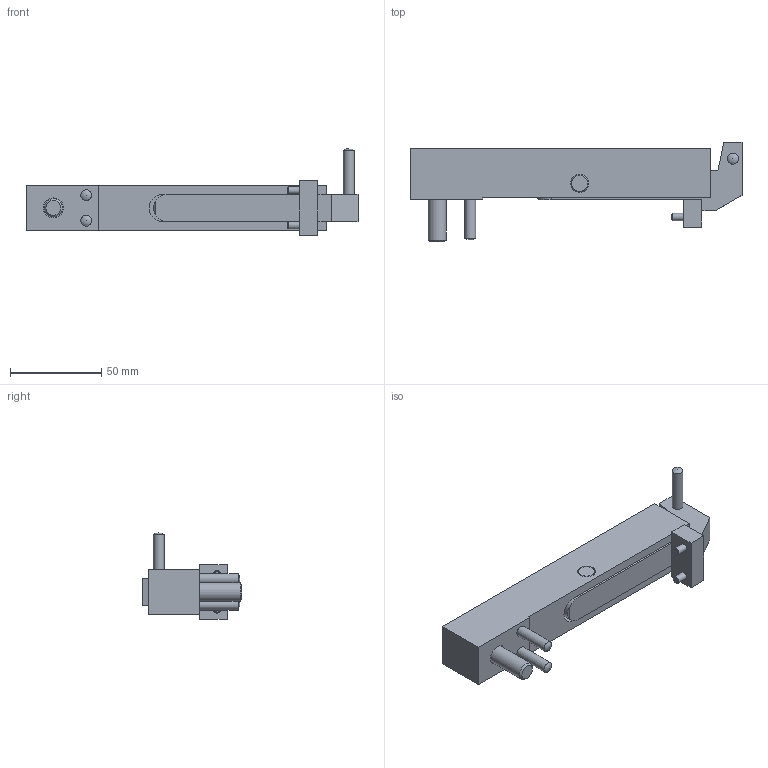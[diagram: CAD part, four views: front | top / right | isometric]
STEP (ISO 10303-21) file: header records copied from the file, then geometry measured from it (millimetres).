
FILE_DESCRIPTION(/* description */ ('STEP AP214'),/* implementation_level */ '2;1');
FILE_NAME(/* name */ 'KL13120',/* time_stamp */ '2024-12-19T07:59:46+01:00',/* author */ ('License CC BY-ND 4.0'),/* organization */ ('CADENAS'),/* preprocessor_version */ 'ST-DEVELOPER v19.3',/* originating_system */ 'PARTsolutions',/* authorisation */ ' ');
FILE_SCHEMA (('AUTOMOTIVE_DESIGN {1 0 10303 214 3 1 1}'));
Length unit declared in the file: millimetre
Products named in the file (10): KL13120; KL1312011; KL1312012; KL1312013; KL1312014; KL1312015; KL1312016; KL1312017; KL1312018; KL1312019
Assembly tree (11 placements, depth 2):
  KL13120
    KL1312011
    KL1312012
    KL1312013  x2
    KL1312014
    KL1312015
    KL1312016
    KL1312017
    KL1312018
    KL1312019  x2
Bounding box: 182 x 54.5 x 47.5 mm (x, y, z)
Volume: 122881.5 mm3; surface area: 43224 mm2
Topology: 11 solids, 11 shells, 118 faces, 270 edges, 178 vertices
Faces by surface type: plane 75, cylinder 26, cone 11, sphere 6
Full cylindrical faces by diameter (mm): 4 x2, 4.134 x1, 4.3 x2, 5 x1, 6 x6, 7 x2, 8 x2, 10 x5, 11 x1, 16 x1, 18 x1
Entity records: 2893 total; most frequent: DIRECTION 467, CARTESIAN_POINT 458, ORIENTED_EDGE 372, EDGE_CURVE 186, AXIS2_PLACEMENT_3D 169, EDGE_LOOP 159, FACE_BOUND 159, VERTEX_POINT 141
